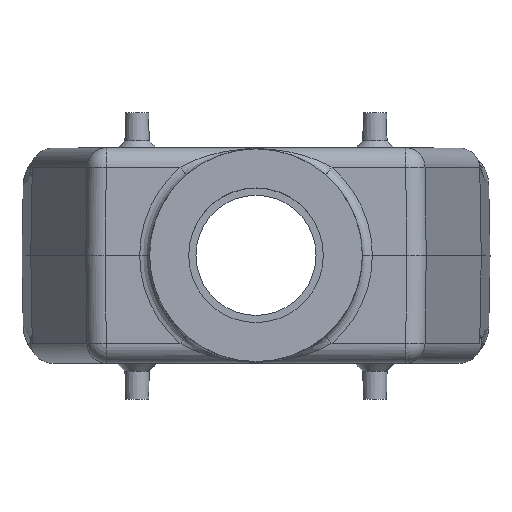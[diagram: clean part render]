
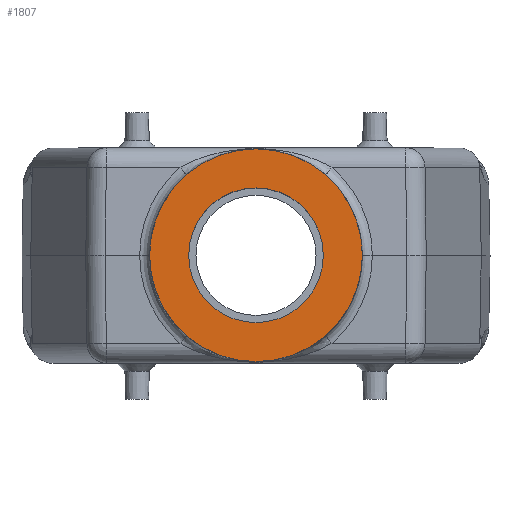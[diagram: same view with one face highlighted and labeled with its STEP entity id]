
A CAD part, top view. The second image highlights one B-rep face of the part: STEP entity #1807.
In plain terms, the highlighted planar face has unit normal (0, 0, 1).
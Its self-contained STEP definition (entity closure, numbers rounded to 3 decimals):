
#791=FACE_BOUND('',#2468,.T.);
#792=FACE_BOUND('',#2469,.T.);
#1807=ADVANCED_FACE('',(#791,#792),#2062,.F.);
#2062=PLANE('',#5321);
#2468=EDGE_LOOP('',(#2783));
#2469=EDGE_LOOP('',(#2784));
#2783=ORIENTED_EDGE('',*,*,#4493,.T.);
#2784=ORIENTED_EDGE('',*,*,#4494,.T.);
#4065=VERTEX_POINT('',#6936);
#4066=VERTEX_POINT('',#6938);
#4493=EDGE_CURVE('',#4065,#4065,#5122,.T.);
#4494=EDGE_CURVE('',#4066,#4066,#5123,.T.);
#5122=CIRCLE('',#5319,21.25);
#5123=CIRCLE('',#5320,13.45);
#5319=AXIS2_PLACEMENT_3D('',#6935,#5738,#5739);
#5320=AXIS2_PLACEMENT_3D('',#6937,#5740,#5741);
#5321=AXIS2_PLACEMENT_3D('',#6939,#5742,#5743);
#5738=DIRECTION('',(0.,0.,1.));
#5739=DIRECTION('',(-1.,0.,0.));
#5740=DIRECTION('',(0.,0.,-1.));
#5741=DIRECTION('',(-1.,0.,0.));
#5742=DIRECTION('',(0.,0.,-1.));
#5743=DIRECTION('',(-1.,0.,0.));
#6935=CARTESIAN_POINT('',(0.,0.,82.85));
#6936=CARTESIAN_POINT('',(-21.25,0.,82.85));
#6937=CARTESIAN_POINT('',(0.,0.,82.85));
#6938=CARTESIAN_POINT('',(-13.45,0.,82.85));
#6939=CARTESIAN_POINT('',(21.25,0.,82.85));
